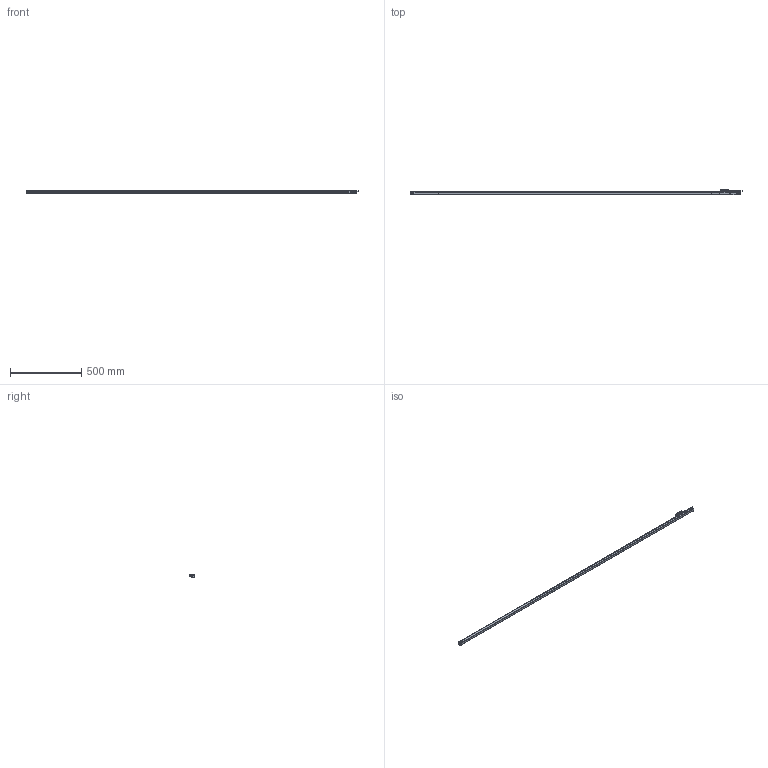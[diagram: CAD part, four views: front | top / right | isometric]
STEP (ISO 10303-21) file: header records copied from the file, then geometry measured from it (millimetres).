
FILE_DESCRIPTION( ( 'STEP AP203' ), '1' );
FILE_NAME( 'N:/Engineering/CAD_Solid/Magnescale/GBER/GB-220ER_SR138-220R.stp', '2013-03-14T09:23:13', ( ' ' ), ( ' ' ), 'XStep 1.0', ' ', ' ' );
FILE_SCHEMA( ( 'CONFIG_CONTROL_DESIGN) ( )' ) );
Length unit declared in the file: metre
Products named in the file (1): 1
Bounding box: 2332.5 x 42 x 21 mm (x, y, z)
Surface area: 222433.2 mm2 (no closed solid volume)
Topology: 0 solids, 361 shells, 361 faces, 1885 edges, 1843 vertices
Faces by surface type: plane 229, cylinder 108, torus 12, cone 10, sphere 1, extrusion 1
Full cylindrical faces by diameter (mm): 2.013 x2, 2.113 x2, 3.242 x2, 4 x8, 4.8 x2, 5 x2, 5.2 x2, 5.8 x2, 6 x1, 9.8 x2, 10 x2
Entity records: 18348 total; most frequent: CARTESIAN_POINT 4098, DIRECTION 3075, ORIENTED_EDGE 1830, EDGE_CURVE 1830, VERTEX_POINT 1830, VECTOR 1301, LINE 1300, AXIS2_PLACEMENT_3D 887
